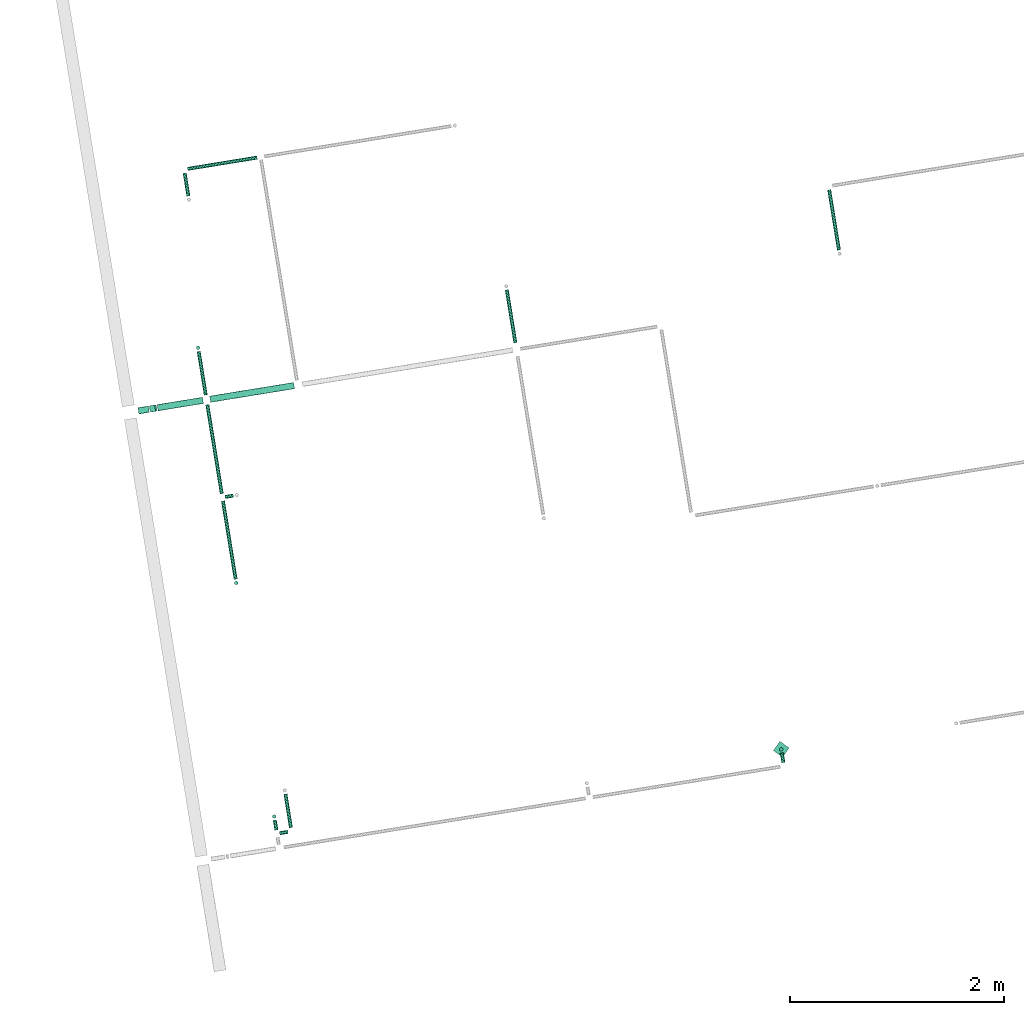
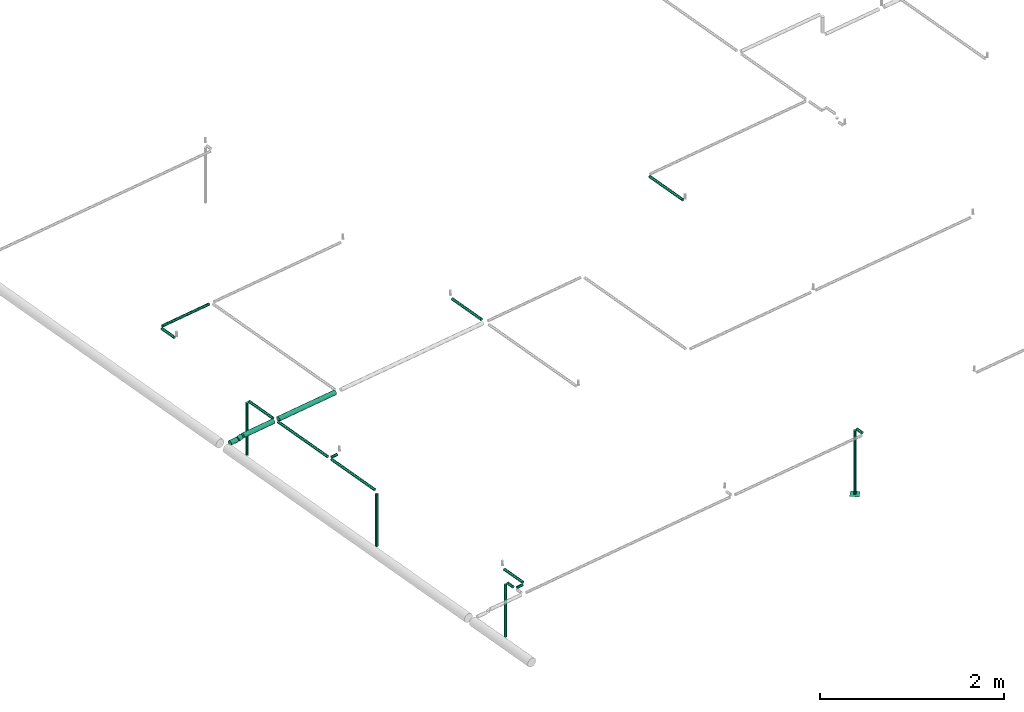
# One storey, part 2 of 11: 20 flow segments, 1 flow terminal.
"""IFC2X3 building model written with IfcOpenShell, lengths in millimetres."""

from ifc_helpers import new_model, entity, si_unit, converted_unit, derived_unit, direction, frame, frame_2d, origin, origin_with_axes, origin_2d_with_axis, place, context, subcontext, project, spatial, rectangle, circle, extrude, source, transform, mapped, material, type_object, element, save


model = new_model("IFC2X3")

# Units and contexts
model_context = context("Model", 3, precision=0.01, world=origin(), true_north=direction((6.12323399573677e-17, 1.0)))
plan_context = context("Plan", 3, precision=1e-05, world=origin_with_axes())
body_context = subcontext(model_context, "Body", "Model", "MODEL_VIEW")
ifc_project = project(units=[converted_unit("PLANEANGLEUNIT", "DEGREE", entity("IfcPositiveLengthMeasure", 0.0174532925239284), si_unit("PLANEANGLEUNIT", "RADIAN"), dimensions=[0, 0, 0, 0, 0, 0, 0]), si_unit("AREAUNIT", "SQUARE_METRE"), si_unit("LENGTHUNIT", "METRE", prefix="MILLI"), si_unit("MASSUNIT", "GRAM", prefix="KILO"), si_unit("POWERUNIT", "WATT"), si_unit("PRESSUREUNIT", "PASCAL", prefix="KILO"), si_unit("FORCEUNIT", "NEWTON", prefix="KILO"), si_unit("ELECTRICVOLTAGEUNIT", "VOLT"), si_unit("ELECTRICCURRENTUNIT", "AMPERE"), si_unit("THERMODYNAMICTEMPERATUREUNIT", "DEGREE_CELSIUS"), si_unit("TIMEUNIT", "SECOND"), si_unit("VOLUMEUNIT", "CUBIC_METRE"), derived_unit("LINEARVELOCITYUNIT", [(si_unit("LENGTHUNIT", "METRE"), 1), (si_unit("TIMEUNIT", "SECOND"), -1)]), derived_unit("VOLUMETRICFLOWRATEUNIT", [(si_unit("VOLUMEUNIT", "CUBIC_METRE"), 1), (si_unit("TIMEUNIT", "SECOND"), -1)]), derived_unit("THERMALTRANSMITTANCEUNIT", [(si_unit("POWERUNIT", "WATT"), 1), (si_unit("THERMODYNAMICTEMPERATUREUNIT", "KELVIN"), -1), (si_unit("AREAUNIT", "SQUARE_METRE"), -1)]), derived_unit("SOUNDPRESSUREUNIT", [(si_unit("PRESSUREUNIT", "PASCAL"), 1)])], contexts=[model_context, plan_context])

# Site, building, storey
site_placement = place(None, frame((-0.00071070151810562, 0.00438415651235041, 0.0), z_axis=(0.0, 0.0, 1.0), x_axis=(-0.160236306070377, 0.987078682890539, 0.0)))
site = spatial("IfcSite", under=ifc_project, at=site_placement, Name="Default", CompositionType="ELEMENT")
building_placement = place(site_placement, origin_with_axes())
building = spatial("IfcBuilding", under=site, at=building_placement, CompositionType="ELEMENT")
storey_placement = place(building_placement, frame((0.0, 0.0, 50999.9999999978), z_axis=(0.0, 0.0, 1.0), x_axis=(1.0, 0.0, 0.0)))
storey = spatial("IfcBuildingStorey", under=building, at=storey_placement, Name="Nivå D", CompositionType="ELEMENT", Elevation=50999.9999999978)

# Flow terminal
ifc_material = material(Name="2dsblk")
fire_suppression_terminal_type = type_object("IfcFireSuppressionTerminalType", Name="UZ014T:Dyse/Spreder - UZ014T", PredefinedType="NOTDEFINED", material=ifc_material)
shared_shape = source(origin(), body_context, "Body", "SweptSolid", [
    extrude(rectangle(XDim=106.066017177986, YDim=106.066017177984, at=frame_2d((-1.02673425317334e-12, -10.6066017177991), x_axis=(1.0, 0.0))), frame((7.50000000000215, 7.50000000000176, -0.1), z_axis=(0.0, 0.0, 1.0), x_axis=(0.707106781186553, -0.707106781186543, 0.0)), (0.0, 0.0, 1.0), 0.2),
])
flow_terminal_placement = place(storey_placement, frame((769888.389509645, -595155.398399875, 2551.952), z_axis=(0.0, 0.0, -1.0), x_axis=(-1.0, 0.0, 0.0)))
element("IfcFlowTerminal", 1, at=flow_terminal_placement, inside=storey, type_object=fire_suppression_terminal_type, material=ifc_material, Name="UZ014T:Dyse/Spreder - UZ014T", ObjectType="UZ014T:Dyse/Spreder - UZ014T", context=body_context, shape_type="MappedRepresentation", body=[
    mapped(shared_shape, transform((0.0, 0.0, 0.0), scale=1.0)),
])

# Flow segments
pipe_segment_type = type_object("IfcPipeSegmentType", Name="Pipe Types:Stålrør normaltykke", PredefinedType="NOTDEFINED")
flow_segment_1_placement = place(storey_placement, origin_with_axes())
element("IfcFlowSegment", 2, at=flow_segment_1_placement, inside=storey, type_object=pipe_segment_type, Name="Pipe Types:Stålrør normaltykke", ObjectType="Pipe Types:Stålrør normaltykke", context=body_context, shape_type="SweptSolid", body=[
    extrude(circle(Radius=16.8500004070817, at=origin_2d_with_axis()), frame((770027.619644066, -590371.557181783, 2703.04800000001)), (0.0, 0.0, 1.0), 693.15202036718),
])
flow_segment_2_placement = place(storey_placement, origin_with_axes())
element("IfcFlowSegment", 3, at=flow_segment_2_placement, inside=storey, type_object=pipe_segment_type, Name="Pipe Types:Stålrør normaltykke", ObjectType="Pipe Types:Stålrør normaltykke", context=body_context, shape_type="SweptSolid", body=[
    extrude(circle(Radius=16.8500004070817, at=frame_2d((4.82997082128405e-18, -8.46271971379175e-19), x_axis=(1.0, 0.0))), frame((772241.994644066, -590371.557181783, 2703.048), z_axis=(-5.57544260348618e-07, 9.76888055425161e-08, 1.0), x_axis=(-1.0, 0.0, -5.57544260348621e-07)), (0.0, 0.0, 1.0), 693.151979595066),
])
flow_segment_3_placement = place(storey_placement, origin_with_axes())
element("IfcFlowSegment", 4, at=flow_segment_3_placement, inside=storey, type_object=pipe_segment_type, Name="Pipe Types:Stålrør normaltykke", ObjectType="Pipe Types:Stålrør normaltykke", context=body_context, shape_type="SweptSolid", body=[
    extrude(circle(Radius=16.8500004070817, at=origin_2d_with_axis()), frame((774470.744644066, -590371.557181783, 2703.04800000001)), (0.0, 0.0, 1.0), 693.152020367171),
])
flow_segment_4_placement = place(storey_placement, origin_with_axes())
element("IfcFlowSegment", 5, at=flow_segment_4_placement, inside=storey, type_object=pipe_segment_type, Name="Pipe Types:Stålrør normaltykke", ObjectType="Pipe Types:Stålrør normaltykke", context=body_context, shape_type="SweptSolid", body=[
    extrude(circle(Radius=16.8500004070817, at=origin_2d_with_axis()), frame((769888.389509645, -595155.398399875, 2555.0), z_axis=(0.0, 0.0, 1.0), x_axis=(-1.0, 0.0, 0.0)), (0.0, 0.0, 1.0), 841.200000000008),
])
flow_segment_5_placement = place(storey_placement, origin_with_axes())
element("IfcFlowSegment", 6, at=flow_segment_5_placement, inside=storey, type_object=pipe_segment_type, Name="Pipe Types:Stålrør normaltykke", ObjectType="Pipe Types:Stålrør normaltykke", context=body_context, shape_type="SweptSolid", body=[
    extrude(circle(Radius=16.8500004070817, at=origin_2d_with_axis()), frame((769762.189509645, -595155.398399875, 3430.0), z_axis=(1.0, 0.0, 0.0), x_axis=(0.0, 1.0, 0.0)), (0.0, 0.0, 1.0), 92.400000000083),
])
flow_segment_6_placement = place(storey_placement, origin_with_axes())
element("IfcFlowSegment", 7, at=flow_segment_6_placement, inside=storey, type_object=pipe_segment_type, Name="Pipe Types:Stålrør normaltykke", ObjectType="Pipe Types:Stålrør normaltykke", context=body_context, shape_type="SweptSolid", body=[
    extrude(circle(Radius=16.8500004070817, at=origin_2d_with_axis()), frame((769898.919666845, -590371.557105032, 3430.0), z_axis=(1.0, 0.0, 0.0), x_axis=(0.0, -1.0, 0.0)), (0.0, 0.0, 1.0), 94.8995595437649),
])
flow_segment_7_placement = place(storey_placement, origin_with_axes())
element("IfcFlowSegment", 8, at=flow_segment_7_placement, inside=storey, type_object=pipe_segment_type, Name="Pipe Types:Stålrør normaltykke", ObjectType="Pipe Types:Stålrør normaltykke", context=body_context, shape_type="SweptSolid", body=[
    extrude(circle(Radius=16.8500004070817, at=origin_2d_with_axis()), frame((769865.119704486, -590475.681754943, 3430.0), z_axis=(-4.77820148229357e-07, 1.0, 0.0), x_axis=(1.0, 4.77820148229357e-07, 0.0)), (0.0, 0.0, 1.0), 78.7746499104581),
])
flow_segment_8_placement = place(storey_placement, origin_with_axes())
element("IfcFlowSegment", 9, at=flow_segment_8_placement, inside=storey, type_object=pipe_segment_type, Name="Pipe Types:Stålrør normaltykke", ObjectType="Pipe Types:Stålrør normaltykke", context=body_context, shape_type="SweptSolid", body=[
    extrude(circle(Radius=16.8500004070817, at=origin_2d_with_axis()), frame((774411.419648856, -596437.180498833, 3430.0), z_axis=(1.0, 0.0, 0.0), x_axis=(0.0, -1.0, 0.0)), (0.0, 0.0, 1.0), 572.400003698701),
])
flow_segment_9_placement = place(storey_placement, origin_with_axes())
element("IfcFlowSegment", 10, at=flow_segment_9_placement, inside=storey, type_object=pipe_segment_type, Name="Pipe Types:Stålrør normaltykke", ObjectType="Pipe Types:Stålrør normaltykke", context=body_context, shape_type="SweptSolid", body=[
    extrude(circle(Radius=30.1499996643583, at=frame_2d((0.0, -8.66293703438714e-12), x_axis=(1.0, 0.0))), frame((773977.619652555, -590337.757110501, 3430.0), z_axis=(0.0, 1.0, 0.0), x_axis=(1.0, 0.0, 0.0)), (0.0, 0.0, 1.0), 430.295747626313),
])
flow_segment_10_placement = place(storey_placement, origin_with_axes())
element("IfcFlowSegment", 11, at=flow_segment_10_placement, inside=storey, type_object=pipe_segment_type, Name="Pipe Types:Stålrør normaltykke", ObjectType="Pipe Types:Stålrør normaltykke", context=body_context, shape_type="SweptSolid", body=[
    extrude(circle(Radius=16.8500004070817, at=frame_2d((0.0, 8.66293703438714e-12), x_axis=(1.0, 0.0))), frame((774040.619652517, -593309.481738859, 3430.0), z_axis=(1.0, 0.0, 0.0), x_axis=(0.0, 1.0, 0.0)), (0.0, 0.0, 1.0), 503.199996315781),
])
flow_segment_11_placement = place(storey_placement, origin_with_axes())
element("IfcFlowSegment", 12, at=flow_segment_11_placement, inside=storey, type_object=pipe_segment_type, Name="Pipe Types:Stålrør normaltykke", ObjectType="Pipe Types:Stålrør normaltykke", context=body_context, shape_type="SweptSolid", body=[
    extrude(circle(Radius=16.8500004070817, at=frame_2d((0.0, 8.66293703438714e-12), x_axis=(1.0, 0.0))), frame((769898.919704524, -590509.48173883, 3430.0), z_axis=(1.0, 0.0, 0.0), x_axis=(0.0, 1.0, 0.0)), (0.0, 0.0, 1.0), 319.899944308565),
])
flow_segment_12_placement = place(storey_placement, origin_with_axes())
element("IfcFlowSegment", 13, at=flow_segment_12_placement, inside=storey, type_object=pipe_segment_type, Name="Pipe Types:Stålrør normaltykke", ObjectType="Pipe Types:Stålrør normaltykke", context=body_context, shape_type="SweptSolid", body=[
    extrude(circle(Radius=30.1499996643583, at=origin_2d_with_axis()), frame((773977.619652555, -589824.381045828, 3412.00010024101), z_axis=(0.0, 1.0, 0.0), x_axis=(-1.0, 0.0, 0.0)), (0.0, 0.0, 1.0), 98.5993069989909),
])
flow_segment_13_placement = place(storey_placement, origin_with_axes())
element("IfcFlowSegment", 14, at=flow_segment_13_placement, inside=storey, type_object=pipe_segment_type, Name="Pipe Types:Stålrør normaltykke", ObjectType="Pipe Types:Stålrør normaltykke", context=body_context, shape_type="SweptSolid", body=[
    extrude(circle(Radius=16.8500004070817, at=frame_2d((0.0, -8.66293703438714e-12), x_axis=(1.0, 0.0))), frame((774022.919652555, -590371.557110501, 3430.0), z_axis=(1.0, 0.0, 0.0), x_axis=(0.0, -1.0, 0.0)), (0.0, 0.0, 1.0), 414.024573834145),
])
flow_segment_14_placement = place(storey_placement, origin_with_axes())
element("IfcFlowSegment", 15, at=flow_segment_14_placement, inside=storey, type_object=pipe_segment_type, Name="Pipe Types:Stålrør normaltykke", ObjectType="Pipe Types:Stålrør normaltykke", context=body_context, shape_type="SweptSolid", body=[
    extrude(circle(Radius=16.8500004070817, at=origin_2d_with_axis()), frame((773086.419652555, -590371.557110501, 3430.0), z_axis=(1.0, 0.0, 0.0), x_axis=(0.0, -1.0, 0.0)), (0.0, 0.0, 1.0), 845.900000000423),
])
flow_segment_15_placement = place(storey_placement, origin_with_axes())
element("IfcFlowSegment", 16, at=flow_segment_15_placement, inside=storey, type_object=pipe_segment_type, Name="Pipe Types:Stålrør normaltykke", ObjectType="Pipe Types:Stålrør normaltykke", context=body_context, shape_type="SweptSolid", body=[
    extrude(circle(Radius=30.1499996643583, at=origin_2d_with_axis()), frame((773977.619652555, -591201.26699355, 3430.0), z_axis=(0.0, 1.0, 0.0), x_axis=(1.0, 0.0, 0.0)), (0.0, 0.0, 1.0), 795.90988304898),
])
flow_segment_16_placement = place(storey_placement, origin_with_axes())
element("IfcFlowSegment", 17, at=flow_segment_16_placement, inside=storey, type_object=pipe_segment_type, Name="Pipe Types:Stålrør normaltykke", ObjectType="Pipe Types:Stålrør normaltykke", context=body_context, shape_type="SweptSolid", body=[
    extrude(circle(Radius=16.8500004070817, at=origin_2d_with_axis()), frame((775886.419648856, -590509.48173883, 3430.0), z_axis=(1.0, 0.0, 0.0), x_axis=(0.0, -1.0, 0.0)), (0.0, 0.0, 1.0), 218.650003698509),
])
flow_segment_17_placement = place(storey_placement, origin_with_axes())
element("IfcFlowSegment", 18, at=flow_segment_17_placement, inside=storey, type_object=pipe_segment_type, Name="Pipe Types:Stålrør normaltykke", ObjectType="Pipe Types:Stålrør normaltykke", context=body_context, shape_type="SweptSolid", body=[
    extrude(circle(Radius=16.8500004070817, at=frame_2d((0.0, 8.66293703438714e-12), x_axis=(1.0, 0.0))), frame((776138.869652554, -591201.26699355, 3430.0), z_axis=(0.0, 1.0, 0.0), x_axis=(-1.0, 0.0, 0.0)), (0.0, 0.0, 1.0), 657.985254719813),
])
flow_segment_18_placement = place(storey_placement, origin_with_axes())
element("IfcFlowSegment", 19, at=flow_segment_18_placement, inside=storey, type_object=pipe_segment_type, Name="Pipe Types:Stålrør normaltykke", ObjectType="Pipe Types:Stålrør normaltykke", context=body_context, shape_type="SweptSolid", body=[
    extrude(circle(Radius=16.8500004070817, at=frame_2d((0.0, 8.66293703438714e-12), x_axis=(1.0, 0.0))), frame((773052.619666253, -590475.681738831, 3430.0), z_axis=(-1.73886393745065e-07, 1.0, 0.0), x_axis=(-1.0, -1.73886393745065e-07, 0.0)), (0.0, 0.0, 1.0), 78.7746283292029),
])
flow_segment_19_placement = place(storey_placement, origin_with_axes())
element("IfcFlowSegment", 20, at=flow_segment_19_placement, inside=storey, type_object=pipe_segment_type, Name="Pipe Types:Stålrør normaltykke", ObjectType="Pipe Types:Stålrør normaltykke", context=body_context, shape_type="SweptSolid", body=[
    extrude(circle(Radius=16.8500004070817, at=origin_2d_with_axis()), frame((772275.794257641, -590371.557110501, 3430.0), z_axis=(1.0, 0.0, 0.0), x_axis=(0.0, -1.0, 0.0)), (0.0, 0.0, 1.0), 743.025394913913),
])
flow_segment_20_placement = place(storey_placement, origin_with_axes())
element("IfcFlowSegment", 21, at=flow_segment_20_placement, inside=storey, type_object=pipe_segment_type, Name="Pipe Types:Stålrør normaltykke", ObjectType="Pipe Types:Stålrør normaltykke", context=body_context, shape_type="SweptSolid", body=[
    extrude(circle(Radius=30.1499996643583, at=origin_2d_with_axis()), frame((773977.619652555, -589891.828692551, 3427.94191990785), z_axis=(0.0, 0.965925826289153, -0.258819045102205), x_axis=(-1.0, 0.0, 0.0)), (0.0, 0.0, 1.0), 53.6427975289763),
])

save(model, "model.ifc")
